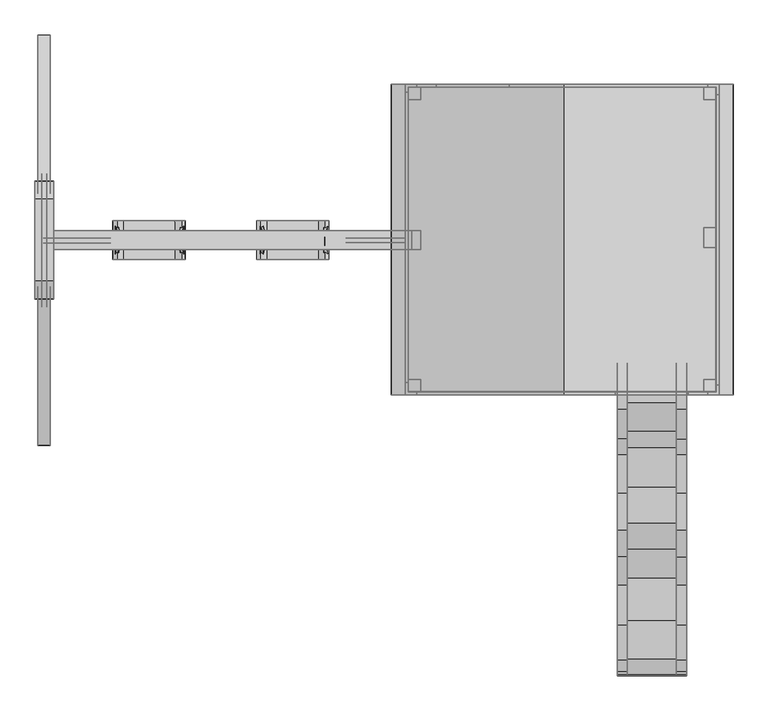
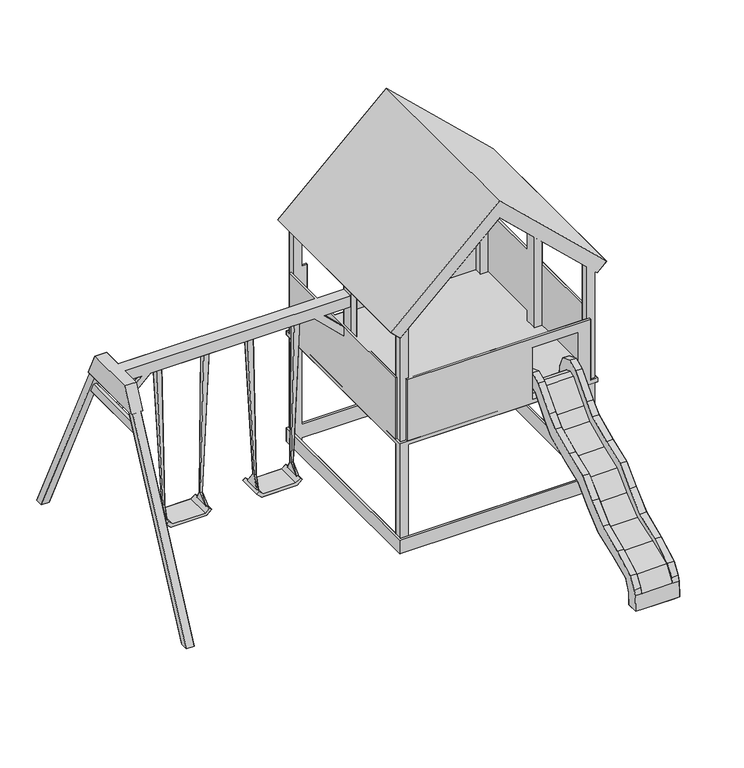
"""IFC4 building model written with IfcOpenShell, lengths in millimetres: geographic element geometry, Enscape AssetDefinition - Play Tower 001 : Enscape AssetDefinition - Play Tower 001."""

from ifc_helpers import new_model, si_unit, origin, place, context, project, spatial, triangles, source, transform, mapped, element, save


def geographic_element_0ab1632b(model_context):
    return source(origin(), model_context, "Body", "Tessellation", [
        triangles([(-381.4159993, 612.8620102, 576.0189829), (-325.6230022, 644.3680086, 2108.1208866), (-325.6230022, 587.7680114, 2108.2999454), (-382.175001, 587.7749877, 2110.6591038), (-401.4869762, 612.8580133, 574.7269833), (-381.4109851, 632.8619522, 576.0699972), (-382.5450002, 534.028995, 449.6180137), (-362.833994, 533.9090169, 453.0059973), (-382.175001, 644.3760023, 2110.4788822), (-401.4830157, 632.8579554, 574.7780339), (-382.5600065, 714.1969585, 449.7820298), (-362.8490004, 714.0769804, 453.1700134), (-778.5649773, 612.8620102, 576.0189829), (-860.7850313, 644.3680086, 2108.1208866), (-860.7850313, 587.7680114, 2108.2999454), (-804.2330326, 644.3760023, 2110.4788822), (-778.5699915, 632.8619522, 576.0699972), (-797.1469826, 533.9090169, 453.0059973), (-777.4360491, 534.028995, 449.6180137), (-804.2330326, 587.7749877, 2110.6591038), (-777.4210064, 714.1969585, 449.7820298), (-758.4930193, 612.8580133, 574.7269833), (-797.1320126, 714.0769804, 453.1700134), (-758.4980335, 632.8579554, 574.7780339), (-1305.3579678, 612.8620102, 576.0189829), (-1249.565007, 644.3680086, 2108.1208866), (-1305.3540436, 632.8619522, 576.0699972), (-1249.565007, 587.7680114, 2108.2999454), (-1306.1170784, 644.3760023, 2110.4788822), (-1286.7761078, 533.9090169, 453.0059973), (-1286.7909325, 714.0769804, 453.1700134), (-1306.1170784, 587.7749877, 2110.6591038), (-1325.4299984, 612.8580133, 574.7269833), (-1306.5019386, 714.1969585, 449.7820298), (-1306.4869686, 534.028995, 449.6180137), (-1325.4250568, 632.8579554, 574.7780339), (-1710.6589554, 632.8619522, 576.0699972), (-1710.6540138, 612.8620102, 576.0189829), (-1736.3229412, 644.3760023, 2110.4788822), (-1792.8750126, 644.3680086, 2108.1208866), (-1709.5260303, 534.028995, 449.6180137), (-1792.8750126, 587.7680114, 2108.2999454), (-1690.5879421, 632.8579554, 574.7780339), (-1736.3229412, 587.7749877, 2110.6591038), (-1690.5830006, 612.8580133, 574.7269833), (-1709.5110603, 714.1969585, 449.7820298), (-1729.2220665, 714.0769804, 453.1700134), (-1729.2360191, 533.9090169, 453.0059973), (-188.1279973, 607.3430157, 2162.8820789), (-247.0189884, 607.3430157, 2121.8919937), (137.3250026, 607.3419983, 1750.2959255), (137.3250026, 637.984968, 1750.2959255), (136.566001, 637.984968, 1848.3268604), (-247.0189884, 637.984968, 2121.8919937), (136.566001, 607.3419983, 1848.3268604), (-188.1279973, 637.984968, 2162.8820789), (135.655001, -372.3640082, 1150.0000088), (2155.6538864, -372.3640082, 1150.0000088), (2155.6538864, 1627.6660561, 1190.0000381), (2155.6538864, 1627.6660561, 1150.0000088), (2155.6538864, -372.3640082, 1190.0000381), (135.655001, 1627.6660561, 1150.0000088), (135.655001, 1627.6660561, 1190.0000381), (135.655001, -372.3640082, 1190.0000381), (2055.654031, -352.3329998, 2454.7638268), (2055.654031, -352.3329998, 0.0), (2135.6539444, -352.3329998, 0.0), (2135.6539444, -352.3329998, 2454.7638268), (2055.654031, -272.3329956, 0.0), (2055.654031, -272.3329956, 2454.7638268), (2135.6539444, -272.3329956, 0.0), (2135.6539444, -272.3329956, 2454.7638268), (2055.654031, 1527.66591, 0.0), (2135.6539444, 1527.66591, 0.0), (2135.6539444, 1527.66591, 2454.7638268), (2055.654031, 1607.6659687, 2454.7638268), (2055.654031, 1607.6659687, 0.0), (2055.654031, 1527.66591, 2454.7638268), (2135.6539444, 1607.6659687, 0.0), (2135.6539444, 1607.6659687, 2454.7638268), (155.6539983, -352.3329998, 2454.7638268), (155.6539983, -272.3329956, 0.0), (155.6539983, -352.3329998, 0.0), (155.6539983, -272.3329956, 2454.7638268), (235.6540026, -272.3329956, 0.0), (235.6540026, -272.3329956, 2454.7638268), (235.6540026, -352.3329998, 2454.7638268), (235.6540026, -352.3329998, 0.0), (155.6539983, 1607.6659687, 0.0), (155.6539983, 1527.66591, 0.0), (155.6539983, 1527.66591, 2454.7638268), (235.6540026, 1607.6659687, 2454.7638268), (155.6539983, 1607.6659687, 2454.7638268), (235.6540026, 1527.66591, 0.0), (235.6540026, 1607.6659687, 0.0), (235.6540026, 1527.66591, 2454.7638268), (1155.6550415, -372.3329782, 3265.3989395), (1155.6550415, -372.3329782, 3450.0001717), (46.9509995, -372.3329782, 2416.9899696), (2148.7460232, -372.3329782, 2323.8000183), (2244.3458565, -372.3339955, 2416.9899696), (1155.6550415, 1627.6669281, 3450.0001717), (142.5500108, -372.3329782, 2323.8000183), (1155.6550415, 1627.6669281, 3265.3989395), (142.5500108, 1627.6669281, 2323.8000183), (2148.7460232, 1627.6669281, 2323.8000183), (2244.3458565, 1627.6669281, 2416.9899696), (46.9500003, 1627.6669281, 2416.9899696), (805.5309912, 1607.6669861, 1850.0000141), (2080.6539585, 1627.6660561, 1850.0000141), (2080.6539585, 1607.6659687, 1190.0000381), (2080.6539585, 1627.6660561, 1190.0000381), (805.5309912, 1627.6669281, 1850.0000141), (805.5309912, 1627.6669281, 1190.0000381), (2080.6539585, 1607.6659687, 1850.0000141), (805.5309912, 1607.6669861, 1190.0000381), (2135.6539444, 1559.3258961, 1850.0000141), (2135.6539444, -309.5470213, 1850.0000141), (2155.6538864, -309.5470213, 1190.0000381), (2155.6538864, -309.5470213, 1850.0000141), (2155.6538864, 1559.3258961, 1190.0000381), (2155.6538864, 1559.3258961, 1850.0000141), (2135.6539444, 1559.3258961, 1190.0000381), (2135.6539444, -309.5470213, 1190.0000381), (211.7809866, -352.3329998, 1190.0000381), (1486.9040085, -352.3339808, 1190.0000381), (1486.9040085, -352.3339808, 1750.0000134), (1486.9040085, -372.3339955, 1190.0000381), (1486.9040085, -372.3339955, 1750.0000134), (211.7809866, -372.3329782, 1850.0000141), (1955.6540302, -352.3329998, 1750.0000134), (1955.6540302, -352.3329998, 1190.0000381), (1955.6540302, -372.3329782, 1190.0000381), (1955.6540302, -372.3329782, 1750.0000134), (2080.6539585, -352.3339808, 1190.0000381), (2080.6539585, -352.3339808, 1850.0000141), (2080.6539585, -372.3339955, 1190.0000381), (2080.6539585, -372.3339955, 1850.0000141), (211.7809866, -352.3329998, 1850.0000141), (211.7809866, -372.3329782, 1190.0000381), (135.655001, 1575.1181007, 1850.0000141), (135.655001, 1575.1181007, 1190.0000381), (135.6540018, -293.7549983, 1850.0000141), (135.6540018, -293.7560157, 1190.0000381), (155.6549975, 1575.1181007, 1850.0000141), (155.6539983, -293.7560157, 1190.0000381), (155.6539983, -293.7549983, 1850.0000141), (155.6549975, 1575.1181007, 1190.0000381), (211.7809866, 1627.6669281, 1850.0000141), (336.7810058, 1627.6660561, 1850.0000141), (336.7810058, 1627.6660561, 1190.0000381), (211.7809866, 1627.6669281, 1190.0000381), (336.7810058, 1607.6659687, 1190.0000381), (336.7810058, 1607.6659687, 1850.0000141), (211.7809866, 1607.6669861, 1190.0000381), (211.7809866, 1607.6669861, 1850.0000141), (135.6540018, 1627.6660561, 0.0), (2155.6538864, 1627.6660561, 0.0), (135.6540018, -372.3329782, 0.0), (135.6540018, -372.3329782, 150.0000102), (135.6540018, 1627.6660561, 150.0000102), (2155.6538864, 1627.6660561, 150.0000102), (2155.6538864, -372.3329782, 0.0), (2155.6538864, -372.3329782, 150.0000102), (156.8680049, -351.1199924, 150.0000102), (2134.440937, -351.1199924, 150.0000102), (156.8680049, -351.1199924, 0.0), (156.8670057, 1606.4529613, 0.0), (156.8670057, 1606.4529613, 150.0000102), (2134.440937, 1606.4529613, 0.0), (2134.440937, 1606.4529613, 150.0000102), (2134.440937, -351.1199924, 0.0), (2055.654031, 575.2819639, 1190.0000381), (2135.6539444, 575.2819639, 2454.7638268), (2055.654031, 704.3009783, 1190.0000381), (2055.654031, 575.2819639, 2518.348027), (2135.6539444, 704.3009783, 1190.0000381), (2055.654031, 704.3009783, 2518.348027), (2135.6539444, 575.2819639, 1190.0000381), (2135.6539444, 704.3009783, 2454.7638268), (235.6540026, 684.324, 2518.348027), (235.6540026, 684.324, 1190.0000381), (176.9330047, 684.324, 2454.7638268), (235.6540026, 562.2759991, 1190.0000381), (235.6540026, 562.2759991, 2518.348027), (176.9340039, 562.2759991, 2454.7638268), (176.9330047, 684.324, 1190.0000381), (176.9330047, 562.2759991, 1190.0000381), (176.9330047, 683.4289965, 2079.9999287), (176.9330047, 563.428981, 2079.9999287), (-2124.346059, 563.428981, 2079.9999287), (176.9330047, 563.428981, 2200.0000168), (-2124.346059, 683.4289965, 2079.9999287), (176.9330047, 683.4289965, 2200.0000168), (-2124.346059, 244.9720021, 1959.9999859), (-2124.346059, 563.428981, 2200.0000168), (-2124.346059, 1001.7429245, 1959.9991138), (-2124.346059, 683.4289965, 2200.0000168), (-2244.3458565, 886.1839897, 2200.0000168), (-2124.346059, 359.7839985, 2200.0000168), (-2244.3458565, 359.7839985, 2200.0000168), (-2124.346059, 886.1839897, 2200.0000168), (-2244.3458565, 1001.7429245, 1959.9991138), (-2244.3458565, 244.9720021, 1959.9999859), (-2169.4819668, 192.7649962, 1725.0640354), (-2200.1239918, 192.7649962, 1725.0640354), (-2200.1239918, 1050.1650415, 1725.0640354), (-2200.1239918, 192.7649962, 1825.0638908), (-2169.4810947, 1050.1650415, 1725.0640354), (-2169.4819668, 192.7649962, 1825.0638908), (-2169.4810947, 1050.1650415, 1825.0638908), (-2200.1239918, 1050.1650415, 1825.0638908), (-2226.0360729, -616.5699961, 0.0), (-2226.0360729, -696.5709995, 0.0), (-2146.0358688, -696.5709995, 0.0), (-2146.0358688, 245.5970003, 1959.9999859), (-2226.0360729, 245.5970003, 1959.9999859), (-2226.0360729, 325.5969864, 1959.9999859), (-2146.0358688, 325.5969864, 1959.9999859), (-2146.0358688, -616.5699961, 0.0), (-2170.8430756, 636.7859859, 1725.6920494), (-1816.3349178, 636.7859859, 2150.9990833), (-2190.0820175, 636.7859859, 1798.9609783), (-1757.9450226, 636.7859859, 2121.8928658), (-2170.8430756, 606.1439973, 1725.6920494), (-1757.9450226, 606.1429799, 2121.8928658), (-2190.0820175, 606.1439973, 1798.9609783), (-1816.3349178, 606.1429799, 2150.9990833), (-2146.0358688, 1001.2619219, 1959.9999859), (-2146.0349968, 1943.4290497, 0.0), (-2226.0360729, 1001.2619219, 1959.9999859), (-2226.0350555, 1943.4290497, 0.0), (-2146.0358688, 921.2620085, 1959.9999859), (-2226.0360729, 921.2620085, 1959.9999859), (-2146.0349968, 1863.4291363, 0.0), (-2226.0350555, 1863.4291363, 0.0), (-818.2070343, 748.429026, 447.0149749), (-767.9119938, 748.429026, 400.2490067), (-818.2070343, 498.4289878, 447.0149749), (-791.4740004, 498.4289878, 465.5869881), (-751.6829699, 498.4289878, 431.3910012), (-767.9119938, 498.4289878, 400.2490067), (-421.1490028, 498.4289878, 431.8549991), (-421.1499839, 748.429026, 431.8560164), (-751.6829699, 748.429026, 431.3910012), (-791.4740004, 748.429026, 465.5869881), (-404.8690009, 748.429026, 400.2490067), (-404.8690009, 498.4289878, 400.2490067), (-354.5739967, 498.4289878, 447.0149749), (-376.668978, 498.4289878, 468.5910198), (-354.5739967, 748.429026, 447.0149749), (-376.668978, 748.429026, 468.5910198), (-1692.0160526, 498.4289878, 400.2490067), (-1675.786956, 498.4289878, 431.3910012), (-1742.3100758, 498.4289878, 447.0149749), (-1715.5769691, 498.4289878, 465.5869881), (-1715.5769691, 748.429026, 465.5869881), (-1742.3100758, 748.429026, 447.0149749), (-1345.2530617, 498.4289878, 431.8549991), (-1328.9730961, 498.4289878, 400.2490067), (-1300.7730732, 498.4289878, 468.5910198), (-1675.786956, 748.429026, 431.3910012), (-1278.6779102, 748.429026, 447.0149749), (-1328.9730961, 748.429026, 400.2490067), (-1345.2539337, 748.429026, 431.8560164), (-1300.7730732, 748.429026, 468.5910198), (-1278.6779102, 498.4289878, 447.0149749), (-1692.0160526, 748.429026, 400.2490067), (1565.0799053, -425.3540151, 1335.2299816), (1565.0799053, -362.9899801, 1355.478019), (1565.0799053, -461.6930034, 1415.5380157), (1878.5410046, -362.9899801, 1355.478019), (1878.5410046, -425.3540151, 1335.2299816), (1878.5410046, -607.9329869, 1127.162958), (1565.0799053, -302.2789875, 1330.6129669), (1565.0799053, -354.8049783, 1465.7369865), (1565.0799053, -228.1649975, 1414.1459496), (1565.0799053, -270.4710089, 1267.4210392), (1498.0210625, -168.4260022, 1210.3810616), (1498.0210625, -179.3660139, 1298.2150898), (1565.0799053, -179.3649965, 1298.2139271), (1878.5410046, -270.4710089, 1267.4210392), (1565.0799053, -263.4330119, 1210.0000528), (1565.0799053, -168.4260022, 1210.3810616), (1878.5410046, -302.2789875, 1330.6139843), (1878.5410046, -263.4330119, 1210.0000528), (1945.5999928, -354.8029799, 1465.7359692), (1878.5410046, -179.3649965, 1298.2150898), (1878.5410046, -228.1649975, 1414.1449322), (1945.5999928, -461.6930034, 1415.5390331), (1878.5410046, -461.6910049, 1415.5409225), (1878.5410046, -354.8059957, 1465.7369865), (1945.5999928, -372.9720016, 1296.7239017), (1945.5999928, -338.7449847, 1283.2319927), (1945.5999928, -228.1659967, 1414.1479843), (1945.5999928, -406.6720159, 1286.0999863), (1945.5999928, -318.2019799, 1246.2679699), (1945.5999928, -179.3649965, 1298.2150898), (1878.5410046, -168.4260022, 1210.3810616), (1945.5999928, -168.4260022, 1210.3810616), (1498.0210625, -338.7449847, 1283.2319927), (1945.5999928, -316.1999946, 1210.0000528), (1498.0210625, -316.1999946, 1210.0000528), (1498.0210625, -318.2019799, 1246.2679699), (1498.0210625, -228.1649975, 1414.1449322), (1498.0210625, -461.6930034, 1415.5380157), (1498.0210625, -372.9720016, 1296.7239017), (1498.0210625, -354.8019988, 1465.7349518), (1565.0799053, -655.2810053, 1201.7309355), (1498.0210625, -577.9569823, 1085.7829983), (1498.0210625, -406.6720159, 1286.0999863), (1498.0210625, -655.2810053, 1201.7309355), (1498.0210625, -756.4679976, 1100.3390865), (1565.0799053, -756.4679976, 1100.3390865), (1565.0799053, -1005.0130011, 984.7890175), (1945.5999928, -577.9569823, 1085.7829983), (1498.0210625, -681.4469954, 977.1729853), (1498.0210625, -1245.1799549, 895.4869829), (1565.0799053, -1245.183007, 895.4859655), (1498.0210625, -1005.0130011, 984.7890175), (1565.0799053, -1195.1069939, 817.0060175), (1498.0210625, -1415.8589264, 727.8289753), (1498.0210625, -942.8779856, 859.3290155), (1565.0799053, -1552.4489902, 498.8090155), (1565.0799053, -1415.8589264, 727.8299927), (1565.0799053, -1365.4730484, 650.7320097), (1878.5410046, -1552.4489902, 498.8090155), (1565.0799053, -1594.9918877, 560.7929864), (1498.0210625, -1594.9891262, 560.7940038), (1565.0799053, -1824.2210644, 410.8959949), (1878.5410046, -1824.2210644, 410.896976), (1878.5410046, -1852.1918861, 450.6690033), (1878.5410046, -2069.3790653, 312.7669919), (1565.0799053, -2069.3790653, 312.7669919), (1565.0799053, -2138.7739574, 207.933002), (1878.5410046, -2138.7739574, 207.933002), (1878.5410046, -2153.8570484, 215.2239996), (1498.0210625, -2153.8570484, 215.2239996), (1565.0799053, -2153.8570484, 215.2239996), (1498.0210625, -1852.1918861, 450.6690033), (1565.0799053, -2080.5910263, 324.0909737), (1498.0210625, -1784.0768578, 348.9499941), (1498.0210625, -2080.5910263, 324.0909737), (1498.0210625, -2001.6451183, 251.5460013), (1498.0210625, -2169.3430218, 161.7539894), (1945.5999928, -2001.6451183, 251.5460013), (1498.0210625, -2054.9359062, 123.374001), (1498.0210625, -2058.39398, 0.0), (1945.5999928, -2058.39398, 0.0), (1945.5999928, -2054.9359062, 123.3730018), (1878.5410046, -2080.5949505, 324.0899926), (1945.5999928, -2169.3430218, 161.7539894), (1945.5999928, -2153.8570484, 215.2239996), (1945.5999928, -2080.5930611, 324.0909737), (1945.5999928, -1852.1918861, 450.6690033), (1878.5410046, -1594.9891262, 560.7940038), (1945.5999928, -1594.9910156, 560.7940038), (1878.5410046, -1415.8589264, 727.8289753), (1878.5410046, -1365.4730484, 650.7320097), (1878.5410046, -965.6119904, 904.1780222), (1565.0799053, -965.6119904, 904.1780222), (1878.5410046, -1195.1069939, 817.0060175), (1878.5410046, -1245.1850418, 895.4849482), (1565.0799053, -709.532999, 1022.2740114), (1878.5410046, -1005.0130011, 984.7890175), (1565.0799053, -607.9329869, 1127.1620132), (1878.5410046, -709.532999, 1022.2740114), (1878.5410046, -756.4669802, 1100.3400312), (1945.5999928, -1005.0130011, 984.7890175), (1945.5999928, -1245.1859138, 895.4849482), (1945.5999928, -1167.5180529, 772.5819849), (1945.5999928, -756.4669802, 1100.3400312), (1878.5410046, -655.2810053, 1201.7309355), (1945.5999928, -655.2810053, 1201.7309355), (1945.5999928, -681.4469954, 977.1729853), (1945.5999928, -942.8779856, 859.3290155), (1498.0210625, -1167.5180529, 772.5819849), (1945.5999928, -1334.6099613, 607.3240125), (1498.0210625, -1334.6099613, 607.3240125), (1498.0210625, -1520.2779888, 450.38599), (1945.5999928, -1415.8580544, 727.8299927), (1945.5999928, -1520.2779888, 450.38599), (1945.5999928, -1784.0768578, 348.9499941), (1565.0799053, -1852.1918861, 450.6690033), (1565.0799053, -2169.3430218, 161.7539894), (1878.5410046, -2169.3430218, 161.7539894), (1945.5999928, -2180.2550011, 0.0), (1878.5410046, -2180.2550011, 0.0), (1565.0799053, -2180.2550011, 0.0), (1498.0210625, -2180.2550011, 0.0)], [[389, 390, 348], [352, 387, 349], [349, 387, 388], [348, 349, 388], [388, 389, 348], [385, 389, 388], [386, 388, 387], [387, 352, 386], [388, 386, 385], [271, 309, 366], [329, 340, 384], [340, 329, 380], [380, 342, 340], [382, 383, 342], [342, 380, 382], [370, 381, 378], [378, 371, 370], [382, 378, 381], [329, 322, 379], [379, 380, 329], [382, 380, 379], [379, 378, 382], [371, 378, 379], [377, 379, 322], [379, 377, 371], [371, 377, 323], [323, 376, 371], [375, 376, 323], [375, 316, 374], [290, 374, 316], [374, 290, 291], [291, 373, 374], [374, 372, 375], [376, 375, 372], [372, 374, 373], [372, 369, 376], [369, 370, 371], [371, 376, 369], [368, 373, 274], [369, 372, 368], [373, 368, 372], [370, 369, 365], [368, 365, 369], [365, 368, 367], [274, 367, 368], [367, 274, 366], [309, 314, 364], [364, 366, 309], [366, 364, 367], [361, 364, 314], [367, 360, 365], [364, 361, 360], [360, 367, 364], [363, 365, 360], [365, 363, 370], [381, 370, 363], [360, 362, 363], [361, 321, 362], [362, 360, 361], [359, 362, 321], [358, 363, 362], [362, 359, 358], [363, 358, 381], [381, 357, 382], [357, 355, 383], [383, 382, 357], [357, 381, 358], [356, 358, 359], [359, 327, 356], [358, 356, 357], [355, 357, 356], [332, 356, 327], [356, 332, 355], [332, 351, 354], [354, 355, 332], [353, 337, 386], [386, 352, 353], [351, 337, 353], [353, 354, 351], [352, 350, 353], [349, 350, 352], [350, 349, 348], [353, 350, 346], [346, 354, 353], [355, 354, 346], [346, 383, 355], [342, 383, 346], [346, 344, 342], [347, 348, 390], [348, 347, 350], [347, 344, 346], [346, 350, 347], [389, 385, 345], [345, 390, 389], [390, 345, 347], [347, 345, 338], [344, 347, 338], [338, 343, 344], [343, 340, 342], [342, 344, 343], [341, 384, 340], [340, 343, 341], [339, 338, 345], [345, 385, 339], [339, 341, 343], [343, 338, 339], [385, 335, 339], [336, 386, 337], [336, 335, 385], [385, 386, 336], [336, 337, 351], [339, 335, 334], [334, 341, 339], [384, 341, 334], [334, 335, 336], [351, 333, 336], [336, 333, 334], [351, 332, 331], [331, 333, 351], [327, 331, 332], [334, 330, 384], [330, 334, 333], [333, 331, 330], [328, 384, 330], [322, 329, 328], [384, 328, 329], [330, 324, 328], [324, 330, 331], [331, 327, 324], [326, 324, 327], [327, 359, 326], [321, 326, 359], [325, 328, 324], [324, 326, 325], [328, 325, 322], [322, 318, 377], [323, 377, 318], [318, 322, 325], [319, 325, 326], [326, 321, 319], [325, 319, 318], [314, 315, 361], [315, 319, 321], [321, 361, 315], [318, 320, 323], [319, 315, 320], [320, 318, 319], [317, 323, 320], [323, 317, 375], [316, 375, 317], [320, 313, 317], [315, 314, 313], [313, 320, 315], [314, 309, 312], [312, 313, 314], [313, 312, 310], [310, 317, 313], [317, 310, 316], [316, 296, 290], [296, 316, 310], [311, 310, 312], [310, 311, 296], [312, 306, 311], [309, 271, 306], [306, 312, 309], [308, 306, 271], [306, 308, 307], [307, 311, 306], [296, 311, 307], [307, 308, 305], [305, 301, 307], [301, 305, 280], [279, 284, 283], [280, 279, 303], [283, 303, 279], [280, 304, 301], [303, 304, 280], [302, 303, 283], [304, 303, 302], [283, 286, 302], [288, 299, 286], [300, 302, 286], [286, 299, 300], [297, 302, 300], [302, 297, 304], [301, 304, 297], [300, 298, 297], [299, 288, 298], [298, 300, 299], [294, 297, 298], [297, 294, 301], [307, 301, 294], [307, 293, 296], [294, 293, 307], [298, 295, 294], [293, 294, 295], [295, 298, 288], [295, 287, 293], [287, 290, 296], [296, 293, 287], [291, 292, 272], [292, 291, 290], [290, 287, 292], [288, 289, 295], [289, 292, 287], [287, 295, 289], [289, 288, 282], [286, 282, 288], [282, 286, 283], [292, 289, 285], [285, 272, 292], [282, 285, 289], [278, 283, 284], [283, 278, 282], [285, 282, 278], [284, 281, 278], [281, 284, 279], [279, 280, 281], [275, 278, 281], [278, 275, 285], [272, 285, 275], [281, 277, 275], [277, 281, 280], [280, 305, 277], [271, 276, 308], [276, 277, 305], [305, 308, 276], [277, 276, 270], [270, 275, 277], [275, 270, 272], [373, 291, 273], [273, 274, 373], [272, 273, 291], [273, 272, 270], [276, 271, 269], [269, 270, 276], [366, 269, 271], [270, 269, 273], [274, 273, 269], [269, 366, 274], [267, 263, 266], [264, 263, 267], [268, 264, 260], [267, 260, 264], [266, 261, 267], [260, 267, 261], [265, 266, 263], [263, 264, 265], [261, 266, 265], [262, 265, 264], [264, 268, 262], [257, 262, 268], [261, 259, 260], [259, 265, 262], [265, 259, 261], [253, 260, 259], [260, 253, 268], [259, 254, 253], [262, 254, 259], [256, 254, 262], [262, 257, 256], [268, 258, 257], [256, 257, 258], [258, 255, 256], [255, 253, 254], [254, 256, 255], [268, 253, 255], [255, 258, 268], [249, 251, 252], [247, 251, 249], [238, 247, 248], [249, 248, 247], [252, 250, 249], [248, 249, 250], [244, 252, 251], [251, 247, 244], [250, 252, 244], [245, 244, 247], [247, 238, 245], [246, 245, 238], [250, 243, 248], [243, 244, 245], [244, 243, 250], [242, 248, 243], [248, 242, 238], [243, 241, 242], [245, 241, 243], [240, 241, 245], [245, 246, 240], [238, 237, 246], [240, 246, 237], [237, 239, 240], [239, 242, 241], [241, 240, 239], [238, 242, 239], [239, 237, 238], [236, 234, 231], [235, 233, 234], [234, 236, 235], [229, 233, 235], [235, 230, 229], [231, 232, 236], [232, 231, 229], [229, 230, 232], [235, 236, 232], [232, 230, 235], [223, 227, 228], [225, 226, 228], [228, 227, 225], [224, 226, 225], [225, 221, 224], [228, 222, 223], [221, 223, 222], [222, 224, 221], [220, 219, 216], [213, 218, 219], [219, 220, 213], [217, 218, 213], [213, 214, 217], [216, 215, 220], [215, 216, 217], [217, 214, 215], [213, 220, 215], [215, 214, 213], [212, 208, 210], [210, 211, 212], [211, 210, 205], [205, 209, 211], [207, 206, 208], [208, 212, 207], [205, 206, 207], [207, 209, 205], [204, 201, 199], [199, 203, 204], [204, 203, 197], [199, 202, 197], [197, 203, 199], [197, 195, 204], [201, 204, 195], [195, 200, 201], [199, 201, 196], [200, 196, 201], [196, 200, 195], [196, 198, 199], [202, 199, 198], [197, 202, 198], [198, 193, 197], [191, 195, 197], [197, 193, 191], [195, 191, 196], [198, 196, 192], [192, 196, 191], [192, 194, 198], [198, 194, 189], [189, 193, 198], [193, 189, 190], [190, 191, 193], [191, 190, 192], [194, 192, 190], [190, 189, 194], [187, 188, 186], [188, 184, 185], [185, 186, 188], [184, 182, 181], [181, 185, 184], [186, 183, 187], [182, 187, 183], [183, 181, 182], [179, 177, 180], [177, 175, 178], [178, 180, 177], [175, 173, 176], [176, 178, 175], [180, 174, 179], [173, 179, 174], [174, 176, 173], [166, 172, 167], [171, 166, 164], [172, 166, 171], [171, 170, 172], [170, 171, 169], [169, 168, 170], [168, 169, 165], [165, 167, 168], [167, 165, 166], [166, 165, 160], [160, 164, 166], [164, 160, 159], [159, 163, 164], [164, 162, 171], [169, 171, 162], [162, 164, 163], [165, 169, 161], [161, 160, 165], [162, 161, 169], [160, 161, 157], [157, 159, 160], [163, 158, 162], [161, 162, 158], [158, 157, 161], [156, 154, 150], [150, 149, 156], [156, 149, 152], [152, 155, 156], [154, 156, 155], [150, 154, 153], [155, 153, 154], [151, 152, 149], [149, 150, 151], [153, 151, 150], [155, 152, 151], [151, 153, 155], [146, 148, 145], [144, 146, 147], [145, 147, 146], [147, 143, 144], [142, 144, 143], [143, 141, 142], [148, 142, 141], [141, 145, 148], [147, 145, 141], [141, 143, 147], [134, 133, 137], [139, 125, 140], [130, 140, 128], [140, 130, 139], [134, 138, 130], [139, 130, 138], [137, 138, 134], [138, 137, 135], [138, 136, 139], [135, 136, 138], [136, 135, 132], [133, 134, 131], [131, 132, 133], [132, 131, 136], [131, 134, 129], [130, 129, 134], [128, 129, 130], [129, 128, 126], [127, 139, 136], [136, 131, 127], [129, 127, 131], [126, 127, 129], [125, 139, 127], [127, 126, 125], [123, 124, 118], [121, 123, 117], [118, 117, 123], [117, 122, 121], [119, 121, 122], [122, 120, 119], [124, 119, 120], [120, 118, 124], [117, 118, 120], [120, 122, 117], [116, 111, 115], [114, 116, 109], [115, 109, 116], [109, 113, 114], [112, 114, 113], [113, 110, 112], [111, 112, 110], [110, 115, 111], [109, 115, 110], [110, 113, 109], [108, 102, 104], [104, 102, 107], [107, 106, 104], [104, 105, 108], [108, 105, 103], [103, 99, 108], [102, 108, 99], [99, 98, 102], [107, 102, 98], [98, 101, 107], [106, 107, 101], [101, 100, 106], [104, 106, 100], [105, 104, 97], [97, 103, 105], [100, 97, 104], [99, 103, 97], [97, 98, 99], [101, 98, 97], [97, 100, 101], [90, 94, 96], [94, 95, 92], [92, 96, 94], [95, 89, 93], [93, 92, 95], [96, 91, 90], [89, 90, 91], [91, 93, 89], [83, 88, 87], [88, 85, 86], [86, 87, 88], [85, 82, 84], [84, 86, 85], [87, 81, 83], [82, 83, 81], [81, 84, 82], [74, 79, 80], [79, 77, 76], [76, 80, 79], [77, 73, 78], [78, 76, 77], [80, 75, 74], [73, 74, 75], [75, 78, 73], [67, 71, 72], [71, 69, 70], [70, 72, 71], [69, 66, 65], [65, 70, 69], [72, 68, 67], [66, 67, 68], [68, 65, 66], [64, 61, 59], [59, 63, 64], [64, 63, 62], [62, 57, 64], [61, 64, 57], [59, 61, 58], [57, 58, 61], [60, 62, 63], [63, 59, 60], [58, 60, 59], [57, 62, 60], [60, 58, 57], [55, 53, 56], [52, 54, 56], [56, 53, 52], [50, 54, 52], [52, 51, 50], [56, 49, 55], [51, 55, 49], [49, 50, 51], [37, 47, 48], [45, 41, 46], [47, 37, 43], [43, 46, 47], [46, 43, 45], [39, 43, 37], [43, 39, 44], [44, 45, 43], [45, 44, 42], [41, 45, 38], [38, 48, 41], [48, 38, 37], [42, 38, 45], [44, 39, 40], [40, 42, 44], [37, 40, 39], [38, 42, 40], [40, 37, 38], [31, 34, 36], [34, 35, 33], [33, 36, 34], [36, 33, 32], [32, 29, 36], [36, 27, 31], [30, 31, 27], [27, 36, 29], [35, 30, 25], [25, 33, 35], [27, 25, 30], [33, 25, 28], [28, 32, 33], [32, 28, 26], [26, 29, 32], [29, 26, 27], [25, 27, 26], [26, 28, 25], [17, 23, 18], [22, 19, 21], [23, 17, 24], [24, 21, 23], [21, 24, 22], [16, 24, 17], [24, 16, 20], [20, 22, 24], [22, 20, 15], [19, 22, 13], [13, 18, 19], [18, 13, 17], [15, 13, 22], [20, 16, 14], [14, 15, 20], [17, 14, 16], [13, 15, 14], [14, 17, 13], [12, 11, 10], [11, 7, 5], [5, 10, 11], [10, 5, 4], [4, 9, 10], [10, 6, 12], [8, 12, 6], [6, 10, 9], [7, 8, 1], [1, 5, 7], [6, 1, 8], [5, 1, 3], [3, 4, 5], [4, 3, 2], [2, 9, 4], [9, 2, 6], [1, 6, 2], [2, 3, 1]], closed=False),
    ])


if __name__ == "__main__":
    model = new_model("IFC4")
    model_context = context("Model", 3, world=origin())
    ifc_project = project(units=[si_unit("LENGTHUNIT", "METRE", prefix="MILLI")], contexts=[model_context])
    site = spatial("IfcSite", under=ifc_project)
    building = spatial("IfcBuilding", under=site)
    placement = place(None, origin())
    geographic_element_shape = geographic_element_0ab1632b(model_context)
    element("IfcGeographicElement", 1, ObjectType="Enscape AssetDefinition - Play Tower 001 : Enscape AssetDefinition - Play Tower 001", at=placement, inside=building, context=model_context, shape_type="MappedRepresentation", body=[
        mapped(geographic_element_shape, transform((0.0, 0.0, 0.0), x_axis=(1.0, 0.0, 0.0), y_axis=(0.0, 1.0, 0.0), z_axis=(0.0, 0.0, 1.0))),
    ])
    save(model, "model.ifc")
